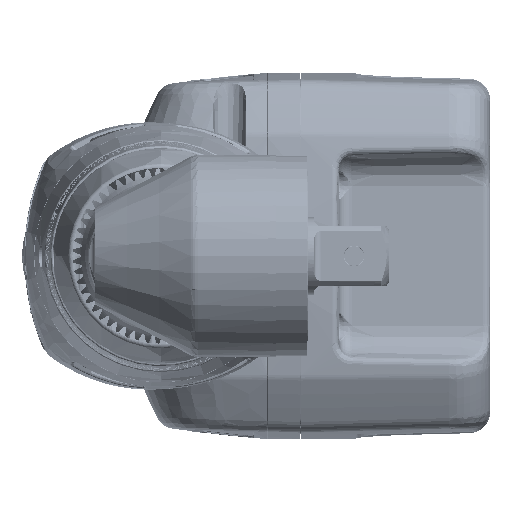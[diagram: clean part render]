
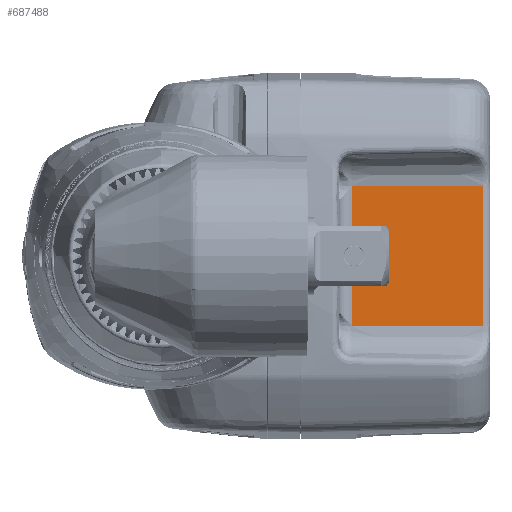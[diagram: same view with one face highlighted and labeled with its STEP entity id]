
A CAD part, left-side view. The second image highlights one B-rep face of the part: STEP entity #687488.
In plain terms, the highlighted planar face has unit normal (-1, -0.026, 0) as drawn and (0, -0.026, 1) by its records, which use the part's own axes.
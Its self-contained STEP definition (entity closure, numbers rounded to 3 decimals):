
#663974=DIRECTION('',(-1.,0.,0.));
#663975=VECTOR('',#663974,0.423);
#663976=CARTESIAN_POINT('',(-14.577,-38.789,
51.444));
#663977=LINE('',#663976,#663975);
#664010=DIRECTION('',(-1.,0.,0.));
#664011=VECTOR('',#664010,30.);
#664012=CARTESIAN_POINT('',(15.,-10.921,
52.173));
#664013=LINE('',#664012,#664011);
#665631=DIRECTION('',(1.,0.,0.));
#665632=VECTOR('',#665631,0.423);
#665633=CARTESIAN_POINT('',(14.577,-38.789,
51.444));
#665634=LINE('',#665633,#665632);
#665714=DIRECTION('',(0.,1.,0.026));
#665715=VECTOR('',#665714,27.877);
#665716=CARTESIAN_POINT('',(15.,-38.789,
51.444));
#665717=LINE('',#665716,#665715);
#666162=DIRECTION('',(0.,-1.,
-0.026));
#666163=VECTOR('',#666162,27.877);
#666164=CARTESIAN_POINT('',(-15.,-10.921,
52.173));
#666165=LINE('',#666164,#666163);
#666446=DIRECTION('',(1.,0.,0.));
#666447=VECTOR('',#666446,29.154);
#666448=CARTESIAN_POINT('',(-14.577,-38.789,
51.444));
#666449=LINE('',#666448,#666447);
#685155=CARTESIAN_POINT('',(-14.577,-38.789,
51.444));
#685156=CARTESIAN_POINT('',(-15.,-38.789,
51.444));
#685157=VERTEX_POINT('',#685155);
#685158=VERTEX_POINT('',#685156);
#685159=CARTESIAN_POINT('',(-15.,-10.921,
52.173));
#685160=VERTEX_POINT('',#685159);
#685161=CARTESIAN_POINT('',(15.,-38.789,
51.444));
#685162=CARTESIAN_POINT('',(15.,-10.921,
52.173));
#685163=VERTEX_POINT('',#685161);
#685164=VERTEX_POINT('',#685162);
#685165=CARTESIAN_POINT('',(14.577,-38.789,
51.444));
#685166=VERTEX_POINT('',#685165);
#687470=CARTESIAN_POINT('',(-399999.654,-8.,52.25));
#687471=DIRECTION('',(0.,0.026,-1.));
#687472=DIRECTION('',(0.,-1.,-0.026));
#687473=AXIS2_PLACEMENT_3D('',#687470,#687471,#687472);
#687474=PLANE('',#687473);
#687476=ORIENTED_EDGE('',*,*,#687475,.F.);
#687478=ORIENTED_EDGE('',*,*,#687477,.F.);
#687480=ORIENTED_EDGE('',*,*,#687479,.F.);
#687482=ORIENTED_EDGE('',*,*,#687481,.F.);
#687483=ORIENTED_EDGE('',*,*,#687460,.T.);
#687485=ORIENTED_EDGE('',*,*,#687484,.F.);
#687486=EDGE_LOOP('',(#687476,#687478,#687480,#687482,#687483,#687485));
#687487=FACE_OUTER_BOUND('',#687486,.F.);
#687488=ADVANCED_FACE('',(#687487),#687474,.F.);
#687460=EDGE_CURVE('',#685157,#685158,#663977,.T.);
#687475=EDGE_CURVE('',#685164,#685160,#664013,.T.);
#687477=EDGE_CURVE('',#685163,#685164,#665717,.T.);
#687479=EDGE_CURVE('',#685166,#685163,#665634,.T.);
#687481=EDGE_CURVE('',#685157,#685166,#666449,.T.);
#687484=EDGE_CURVE('',#685160,#685158,#666165,.T.);
